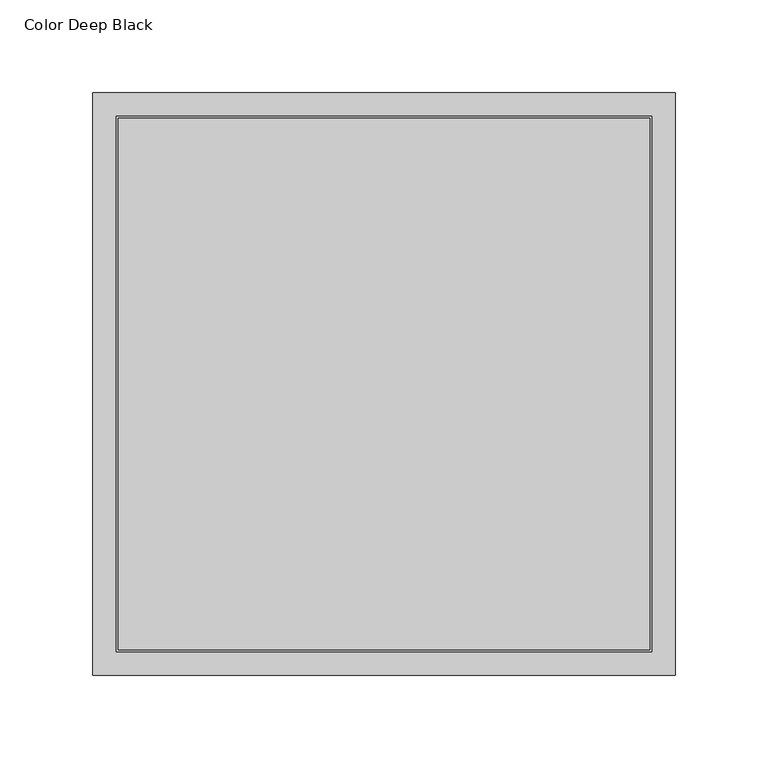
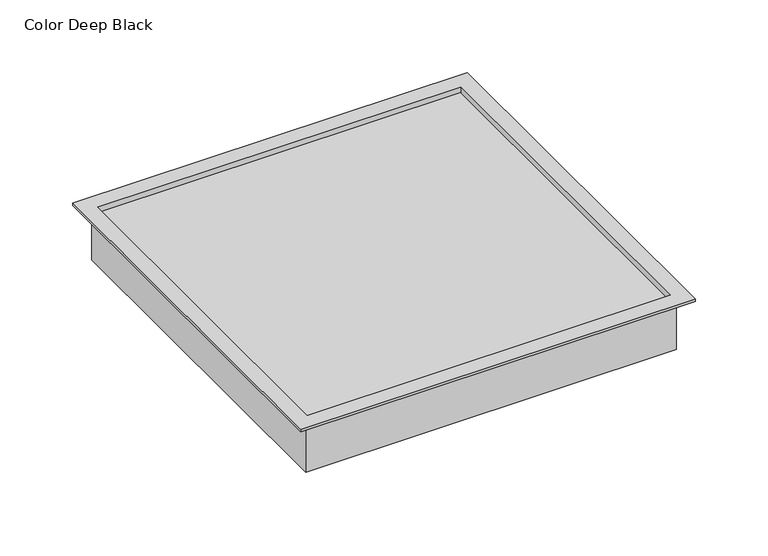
"""IFC4 building model written with IfcOpenShell, lengths in millimetres: proxy geometry, Electrical_Installation_Hager_VE-EE_Cover-BDQ08 : Color Deep Black."""

from ifc_helpers import new_model, si_unit, frame, origin, place, context, project, spatial, polyline, outline, extrude, faceted_brep, source, transform, mapped, element, save


def color_deep_black_3e0b7094(model_context):
    return source(origin(), model_context, "Body", "SolidModel", [
        faceted_brep([(156.5, 156.5, 2.0), (-156.5, 156.5, 2.0), (-156.5, -156.5, 2.0), (156.5, -156.5, 2.0), (144.0, 144.0, 2.0), (144.0, -144.0, 2.0), (-144.0, -144.0, 2.0), (-144.0, 144.0, 2.0), (156.5, 156.5, 0.0), (156.5, -156.5, 0.0), (-156.5, -156.5, 0.0), (-156.5, 156.5, 0.0), (147.0, 147.0, 0.0), (-147.0, 147.0, 0.0), (-147.0, -147.0, 0.0), (147.0, -147.0, 0.0), (-144.0, 144.0, -43.0), (144.0, 144.0, -43.0), (-144.0, -144.0, -43.0), (144.0, -144.0, -43.0), (147.0, 147.0, -43.0), (147.0, -147.0, -43.0), (-147.0, -147.0, -43.0), (-147.0, 147.0, -43.0)], [[[0, 1, 2, 3], [4, 5, 6, 7]], [[8, 9, 10, 11], [12, 13, 14, 15]], [[4, 7, 16, 17]], [[16, 7, 6, 18]], [[18, 6, 5, 19]], [[19, 5, 4, 17]], [[1, 0, 8, 11]], [[2, 1, 11, 10]], [[3, 2, 10, 9]], [[0, 3, 9, 8]], [[20, 21, 22, 23], [17, 16, 18, 19]], [[20, 23, 13, 12]], [[23, 22, 14, 13]], [[22, 21, 15, 14]], [[21, 20, 12, 15]]]),
        extrude(outline(polyline([(-144.0, -144.0), (-144.0, 144.0), (144.0, 144.0), (144.0, -144.0), (-144.0, -144.0)])), frame((0.0, 0.0, -8.0), z_axis=(0.0, 0.0, 1.0), x_axis=(1.0, 0.0, 0.0)), (0.0, 0.0, 1.0), 5.0),
        extrude(outline(polyline([(-143.0, 143.0), (143.0, 143.0), (143.0, -143.0), (-143.0, -143.0), (-143.0, 143.0)])), frame((0.0, 0.0, -3.0), z_axis=(0.0, 0.0, 1.0), x_axis=(1.0, 0.0, 0.0)), (0.0, 0.0, 1.0), 1.0),
        faceted_brep([(-113.0, -94.9699721, -43.0), (-113.0, 94.9699721, -43.0), (-80.5865468, 124.0, -43.0), (80.5865468, 124.0, -43.0), (114.0, 94.0743555, -43.0), (114.0, -92.8826498, -43.0), (81.703096, -123.0, -43.0), (-79.7925597, -123.0, -43.0), (-110.5, -94.1052536, -43.0), (-78.6375385, -121.0, -43.0), (81.6589155, -121.0, -43.0), (111.5, -93.1727385, -43.0), (111.5, 93.1727385, -43.0), (80.5865468, 122.0, -43.0), (-80.5865468, 122.0, -43.0), (-110.5, 94.1052536, -43.0), (-110.5, 94.1052536, -32.9566947), (-110.5, -94.1052536, -32.9566947), (-80.5865468, 122.0, -32.9566947), (80.5865468, 122.0, -32.9566947), (111.5, 93.1727385, -32.9566947), (111.5, -93.1727385, -32.9566947), (81.6589155, -121.0, -32.9566947), (-78.6375385, -121.0, -32.9566947), (-79.7925597, -123.0, -35.4566947), (-113.0, -94.9699721, -35.4566947), (81.703096, -123.0, -35.4566947), (114.0, -92.8826498, -35.4566947), (114.0, 94.0743555, -35.4566947), (80.5865468, 124.0, -35.4566947), (-80.5865468, 124.0, -35.4566947), (-113.0, 94.9699721, -35.4566947), (143.0, 143.0, -32.9566947), (-143.0, 143.0, -32.9566947), (-143.0, -143.0, -32.9566947), (143.0, -143.0, -32.9566947), (143.0, 143.0, -35.4566947), (143.0, -143.0, -35.4566947), (-143.0, -143.0, -35.4566947), (-143.0, 143.0, -35.4566947)], [[[0, 1, 2, 3, 4, 5, 6, 7], [8, 9, 10, 11, 12, 13, 14, 15]], [[8, 15, 16, 17]], [[16, 15, 14, 18]], [[18, 14, 13, 19]], [[19, 13, 12, 20]], [[20, 12, 11, 21]], [[21, 11, 10, 22]], [[22, 10, 9, 23]], [[23, 9, 8, 17]], [[0, 7, 24, 25]], [[7, 6, 26, 24]], [[6, 5, 27, 26]], [[5, 4, 28, 27]], [[4, 3, 29, 28]], [[3, 2, 30, 29]], [[2, 1, 31, 30]], [[1, 0, 25, 31]], [[32, 33, 34, 35], [18, 19, 20, 21, 22, 23, 17, 16]], [[36, 37, 38, 39], [25, 24, 26, 27, 28, 29, 30, 31]], [[33, 32, 36, 39]], [[34, 33, 39, 38]], [[35, 34, 38, 37]], [[32, 35, 37, 36]]]),
    ])


if __name__ == "__main__":
    model = new_model("IFC4")
    model_context = context("Model", 3, world=origin())
    ifc_project = project(units=[si_unit("LENGTHUNIT", "METRE", prefix="MILLI")], contexts=[model_context])
    site = spatial("IfcSite", under=ifc_project)
    building = spatial("IfcBuilding", under=site)
    placement = place(None, origin())
    color_deep_black_shape = color_deep_black_3e0b7094(model_context)
    element("IfcBuildingElementProxy", 1, Name="Electrical_Installation_Hager_VE-EE_Cover-BDQ08 : Color Deep Black", ObjectType="Electrical_Installation_Hager_VE-EE_Cover-BDQ08 : Color Deep Black", at=placement, inside=building, context=model_context, shape_type="MappedRepresentation", body=[
        mapped(color_deep_black_shape, transform((0.0, 0.0, 0.0), x_axis=(1.0, 0.0, 0.0), y_axis=(0.0, 1.0, 0.0), z_axis=(0.0, 0.0, 1.0))),
    ])
    save(model, "model.ifc")
